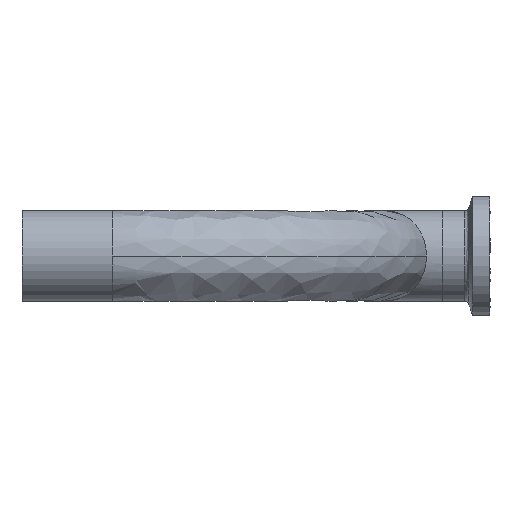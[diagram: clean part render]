
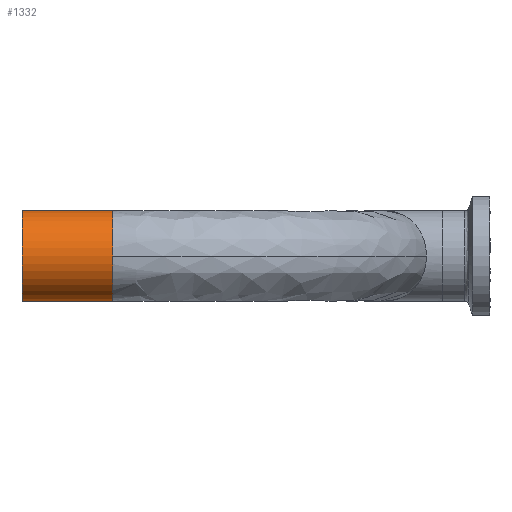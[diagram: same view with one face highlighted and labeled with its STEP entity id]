
A CAD part, left-side view. The second image highlights one B-rep face of the part: STEP entity #1332.
In plain terms, the highlighted cylindrical face has radius 9.525 mm (diameter 19.05 mm), a partial arc.
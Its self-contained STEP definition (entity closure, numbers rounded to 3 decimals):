
#1 = CARTESIAN_POINT ( 'NONE',  ( -57.15, 76.2, 9.525 ) ) ;
#38 = VECTOR ( 'NONE', #1757, 1000. ) ;
#75 = CARTESIAN_POINT ( 'NONE',  ( -57.15, 57.15, 0. ) ) ;
#81 = VERTEX_POINT ( 'NONE', #540 ) ;
#99 = DIRECTION ( 'NONE',  ( 0., 0., 1. ) ) ;
#124 = CARTESIAN_POINT ( 'NONE',  ( -57.15, 57.15, 0. ) ) ;
#135 = CARTESIAN_POINT ( 'NONE',  ( -57.15, 57.15, 0. ) ) ;
#217 = ORIENTED_EDGE ( 'NONE', *, *, #1155, .T. ) ;
#218 = DIRECTION ( 'NONE',  ( -1., 0., 0. ) ) ;
#261 = EDGE_LOOP ( 'NONE', ( #1318, #955, #590, #217, #731 ) ) ;
#263 = DIRECTION ( 'NONE',  ( 0., 0., 1. ) ) ;
#278 = DIRECTION ( 'NONE',  ( -1., 0., 0. ) ) ;
#540 = CARTESIAN_POINT ( 'NONE',  ( -57.15, 57.15, -9.525 ) ) ;
#559 = DIRECTION ( 'NONE',  ( 0., 1., 0. ) ) ;
#560 = VERTEX_POINT ( 'NONE', #1689 ) ;
#583 = CARTESIAN_POINT ( 'NONE',  ( -57.15, 57.15, -9.525 ) ) ;
#590 = ORIENTED_EDGE ( 'NONE', *, *, #996, .F. ) ;
#647 = VECTOR ( 'NONE', #711, 1000. ) ;
#650 = EDGE_CURVE ( 'NONE', #560, #81, #1362, .T. ) ;
#711 = DIRECTION ( 'NONE',  ( 0., 1., 0. ) ) ;
#731 = ORIENTED_EDGE ( 'NONE', *, *, #1068, .T. ) ;
#880 = VERTEX_POINT ( 'NONE', #1340 ) ;
#948 = DIRECTION ( 'NONE',  ( 0., -1., 0. ) ) ;
#955 = ORIENTED_EDGE ( 'NONE', *, *, #650, .F. ) ;
#996 = EDGE_CURVE ( 'NONE', #1459, #560, #1261, .T. ) ;
#997 = AXIS2_PLACEMENT_3D ( 'NONE', #124, #559, #263 ) ;
#1023 = AXIS2_PLACEMENT_3D ( 'NONE', #75, #1053, #218 ) ;
#1053 = DIRECTION ( 'NONE',  ( 0., -1., 0. ) ) ;
#1068 = EDGE_CURVE ( 'NONE', #1692, #880, #1185, .T. ) ;
#1109 = DIRECTION ( 'NONE',  ( 0., -1., 0. ) ) ;
#1131 = CARTESIAN_POINT ( 'NONE',  ( -57.15, 57.15, 9.525 ) ) ;
#1139 = LINE ( 'NONE', #1205, #38 ) ;
#1155 = EDGE_CURVE ( 'NONE', #1459, #1692, #1139, .T. ) ;
#1185 = CIRCLE ( 'NONE', #1423, 9.525 ) ;
#1205 = CARTESIAN_POINT ( 'NONE',  ( -57.15, 57.15, 9.525 ) ) ;
#1235 = EDGE_CURVE ( 'NONE', #81, #880, #1371, .T. ) ;
#1261 = CIRCLE ( 'NONE', #1520, 9.525 ) ;
#1318 = ORIENTED_EDGE ( 'NONE', *, *, #1235, .F. ) ;
#1332 = ADVANCED_FACE ( 'NONE', ( #1605 ), #1523, .T. ) ;
#1340 = CARTESIAN_POINT ( 'NONE',  ( -57.15, 76.2, -9.525 ) ) ;
#1362 = CIRCLE ( 'NONE', #1023, 9.525 ) ;
#1371 = LINE ( 'NONE', #583, #647 ) ;
#1423 = AXIS2_PLACEMENT_3D ( 'NONE', #1747, #948, #99 ) ;
#1459 = VERTEX_POINT ( 'NONE', #1131 ) ;
#1520 = AXIS2_PLACEMENT_3D ( 'NONE', #135, #1109, #278 ) ;
#1523 = CYLINDRICAL_SURFACE ( 'NONE', #997, 9.525 ) ;
#1605 = FACE_OUTER_BOUND ( 'NONE', #261, .T. ) ;
#1689 = CARTESIAN_POINT ( 'NONE',  ( -66.675, 57.15, 0. ) ) ;
#1692 = VERTEX_POINT ( 'NONE', #1 ) ;
#1747 = CARTESIAN_POINT ( 'NONE',  ( -57.15, 76.2, 0. ) ) ;
#1757 = DIRECTION ( 'NONE',  ( 0., 1., 0. ) ) ;
